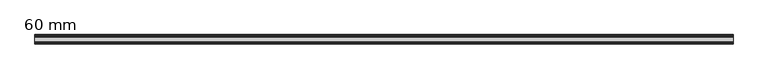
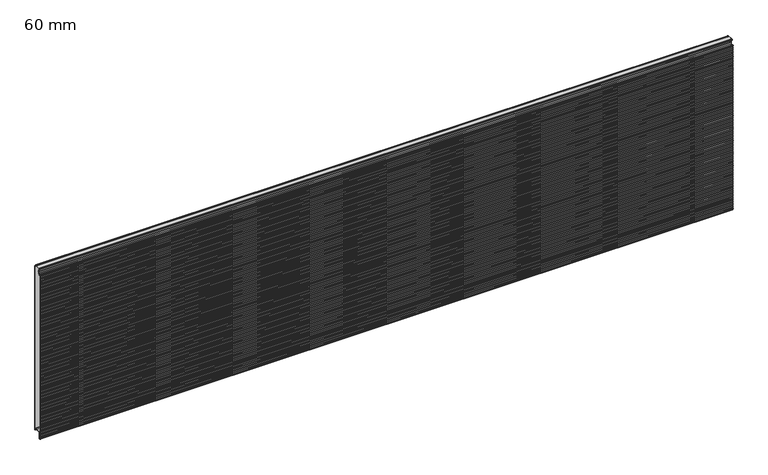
"""IFC4 building model written with IfcOpenShell, lengths in millimetres: plate geometry, HIANSA PANEL - H20.F05.001-HFM-PANELES DE FACHADA HOR - PANEL MICROPERFILADO - Panel de Muro Cortina : 60 mm."""

from ifc_helpers import new_model, si_unit, point, frame, frame_2d, origin, place, context, project, spatial, polyline, circle_curve, trimmed, segment, composite_curve, outline, extrude, source, transform, mapped, element, save


def plate_60_mm_c00890b3(model_context):
    return source(origin(), model_context, "Body", "SweptSolid", [
        extrude(outline(polyline([(-44.0928552, 1122.4810465), (-43.2950639, 1122.9800953), (-13.698739, 1122.9800953), (-12.9009477, 1122.4810465), (-44.0928552, 1122.4810465)])), frame((-2200.0, 0.0, 0.0), z_axis=(1.0, 0.0, 0.0), x_axis=(0.0, 1.0, 0.0)), (0.0, 0.0, 1.0), 4400.0),
        extrude(outline(polyline([(-44.0762276, 25.6210466), (-12.9205792, 25.6210466), (-13.7002597, 25.1210465), (-43.2965471, 25.1210465), (-44.0762276, 25.6210466)])), frame((-2200.0, 0.0, 0.0), z_axis=(1.0, 0.0, 0.0), x_axis=(0.0, 1.0, 0.0)), (0.0, 0.0, 1.0), 4400.0),
        extrude(outline(composite_curve([segment(polyline([(-49.4621895, -19.2009512), (-49.4621895, 22.7800953)]), True, "CONTINUOUS"), segment(trimmed(circle_curve(frame_2d((-46.6221895, 22.7800953)), 2.84), [point((-49.4621895, 22.7800953))], [point((-46.6221895, 25.6200953))], False, "CARTESIAN"), True, "CONTINUOUS"), segment(polyline([(-46.6221895, 25.6200953), (-44.0747442, 25.6200953), (-43.2950639, 25.1200953), (-46.6221895, 25.1200953)]), True, "CONTINUOUS"), segment(trimmed(circle_curve(frame_2d((-46.6221895, 22.7800953)), 2.34), [point((-46.6221895, 25.1200953))], [point((-48.9621895, 22.7800953))], True, "CARTESIAN"), True, "CONTINUOUS"), segment(polyline([(-48.9621895, 22.7800953), (-48.9621895, -19.0009512)]), True, "CONTINUOUS"), segment(trimmed(circle_curve(frame_2d((-49.6621895, -19.0009512)), 0.7), [point((-48.9621895, -19.0009512))], [point((-49.6621895, -19.7009512))], False, "CARTESIAN"), True, "CONTINUOUS"), segment(polyline([(-49.6621895, -19.7009512), (-53.4121895, -19.7009512)]), True, "CONTINUOUS"), segment(trimmed(circle_curve(frame_2d((-53.4121895, -19.0009512)), 0.7), [point((-53.4121895, -19.7009512))], [point((-54.1121895, -19.0009512))], False, "CARTESIAN"), True, "CONTINUOUS"), segment(polyline([(-54.1121895, -19.0009512), (-54.1121895, -10.8354413)]), True, "CONTINUOUS"), segment(trimmed(circle_curve(frame_2d((-55.4121895, -10.8354413)), 1.3), [point((-54.1121895, -10.8354413))], [point((-55.4121895, -9.5354413))], True, "CARTESIAN"), True, "CONTINUOUS"), segment(polyline([(-55.4121895, -9.5354413), (-57.8016102, -9.5354413)]), True, "CONTINUOUS"), segment(trimmed(circle_curve(frame_2d((-57.8016102, -7.9354413)), 1.6), [point((-57.8016102, -9.5354413))], [point((-59.3489873, -8.3424108))], False, "CARTESIAN"), True, "CONTINUOUS"), segment(polyline([(-59.3489873, -8.3424108), (-60.0, -5.8671339), (-58.9729658, 0.1648575), (-59.9990488, 6.1645587), (-58.9729147, 12.1645587), (-59.9990488, 18.1645587), (-58.9729147, 24.1645587), (-59.9990488, 30.1645587), (-58.9729147, 36.1645587), (-59.9990488, 42.1645587), (-58.9729147, 48.1645587), (-59.9990488, 54.1645587), (-58.9729147, 60.1645587), (-59.9990488, 66.1645587), (-58.9729147, 72.1645587), (-59.9990488, 78.1645587), (-58.9729147, 84.1645587), (-59.9990488, 90.1645587), (-58.9729147, 96.1645587), (-59.9990488, 102.1645587), (-58.9729147, 108.1645587), (-59.9990488, 114.1645587), (-58.9729147, 120.1645587), (-59.9990488, 126.1645587), (-58.9729147, 132.1645587), (-59.9990488, 138.1645587), (-58.9729147, 144.1645587), (-59.9990488, 150.1645587), (-58.9729147, 156.1645587), (-59.9990488, 162.1645587), (-58.9729147, 168.1645587), (-59.9990488, 174.1645587), (-58.9729147, 180.1645587), (-59.9990488, 186.1645587), (-58.9729147, 192.1645587), (-59.9990488, 198.1645587), (-58.9729147, 204.1645587), (-59.9990488, 210.1645587), (-58.9729147, 216.1645587), (-59.9990488, 222.1645587), (-58.9729147, 228.1645587), (-59.9990488, 234.1645587), (-58.9729147, 240.1645587), (-59.9990488, 246.1645587), (-58.9729147, 252.1645587), (-59.9990488, 258.1645587), (-58.9729147, 264.1645587), (-59.9990488, 270.1645587), (-58.9729147, 276.1645587), (-59.9990488, 282.1645587), (-58.9729147, 288.1645587), (-59.9990488, 294.1645587), (-58.9729147, 300.1645587), (-59.9990488, 306.1645587), (-58.9729147, 312.1645587), (-59.9990488, 318.1645587), (-58.9729147, 324.1645587), (-59.9990488, 330.1645587), (-58.9729147, 336.1645587), (-59.9990488, 342.1645587), (-58.9729147, 348.1645587), (-59.9990488, 354.1645587), (-58.9729147, 360.1645587), (-59.9990488, 366.1645587), (-58.9729147, 372.1645587), (-59.9990488, 378.1645587), (-58.9729147, 384.1645587), (-59.9990488, 390.1645587), (-58.9729147, 396.1645587), (-59.9990488, 402.1645587), (-58.9729147, 408.1645587), (-59.9990488, 414.1645587), (-58.9729147, 420.1645587), (-59.9990488, 426.1645587), (-58.9729147, 432.1645587), (-59.9990488, 438.1645587), (-58.9729147, 444.1645587), (-59.9990488, 450.1645587), (-58.9729147, 456.1645587), (-59.9990488, 462.1645587), (-58.9729147, 468.1645587), (-59.9990488, 474.1645587), (-58.9729147, 480.1645587), (-59.9990488, 486.1645587), (-58.9729147, 492.1645587), (-59.9990488, 498.1645587), (-58.9729147, 504.1645587), (-59.9990488, 510.1645587), (-58.9729147, 516.1645587), (-59.9990488, 522.1645587), (-58.9729147, 528.1645587), (-59.9990488, 534.1645587), (-58.9729147, 540.1645587), (-59.9990488, 546.1645587), (-58.9729147, 552.1645587), (-59.9990488, 558.1645587), (-58.9729147, 564.1645587), (-59.9990488, 570.1645587), (-58.9729147, 576.1645587), (-59.9990488, 582.1645587), (-58.9729147, 588.1645587), (-59.9990488, 594.1645587), (-58.9729147, 600.1645587), (-59.9990488, 606.1645587), (-58.9729147, 612.1645587), (-59.9990488, 618.1645587), (-58.9729147, 624.1645587), (-59.9990488, 630.1645587), (-58.9729147, 636.1645587), (-59.9990488, 642.1645587), (-58.9729147, 648.1645587), (-59.9990488, 654.1645587), (-58.9729147, 660.1645587), (-59.9990488, 666.1645587), (-58.9729147, 672.1645587), (-59.9990488, 678.1645587), (-58.9729147, 684.1645587), (-59.9990488, 690.1645587), (-58.9729147, 696.1645587), (-59.9990488, 702.1645587), (-58.9729147, 708.1645587), (-59.9990488, 714.1645587), (-58.9729147, 720.1645587), (-59.9990488, 726.1645587), (-58.9729147, 732.1645587), (-59.9990488, 738.1645587), (-58.9729147, 744.1645587), (-59.9990488, 750.1645587), (-58.9729147, 756.1645587), (-59.9990488, 762.1645587), (-58.9729147, 768.1645587), (-59.9990488, 774.1645587), (-58.9729147, 780.1645587), (-59.9990488, 786.1645587), (-58.9729147, 792.1645587), (-59.9990488, 798.1645587), (-58.9729147, 804.1645587), (-59.9990488, 810.1645587), (-58.9729147, 816.1645587), (-59.9990488, 822.1645587), (-58.9729147, 828.1645587), (-59.9990488, 834.1645587), (-58.9729147, 840.1645587), (-59.9990488, 846.1645587), (-58.9729147, 852.1645587), (-59.9990488, 858.1645587), (-58.9729147, 864.1645587), (-59.9990488, 870.1645587), (-58.9729147, 876.1645587), (-59.9990488, 882.1645587), (-58.9729147, 888.1645587), (-59.9990488, 894.1645587), (-58.9729147, 900.1645587), (-59.9990488, 906.1645587), (-58.9729147, 912.1645587), (-59.9990488, 918.1645587), (-58.9729147, 924.1645587), (-59.9990488, 930.1645587), (-58.9729147, 936.1645587), (-59.9990488, 942.1645587), (-58.9729147, 948.1645587), (-59.9990488, 954.1645587), (-58.9729147, 960.1645587), (-59.9990488, 966.1645587), (-58.9729147, 972.1645587), (-59.9990488, 978.1645587), (-58.9729147, 984.1645587), (-59.9990488, 990.1645587), (-58.9729147, 996.1645587), (-59.9990488, 1002.1645587), (-58.9729147, 1008.1645587), (-59.9990488, 1014.1645587), (-58.9729147, 1020.1645587), (-59.9990488, 1026.1645587), (-58.9729147, 1032.1645587), (-59.9990488, 1038.1645587), (-58.9729147, 1044.1645587), (-59.9990488, 1050.1645587), (-58.9729147, 1056.1645587), (-59.9990488, 1062.1645587), (-58.9729147, 1068.1645587), (-59.9990488, 1074.1645587), (-58.9729658, 1080.1642599), (-60.0, 1086.1962513), (-59.3489873, 1088.6715282)]), True, "CONTINUOUS"), segment(trimmed(circle_curve(frame_2d((-57.8016102, 1088.2645587)), 1.6), [point((-59.3489873, 1088.6715282))], [point((-57.8016102, 1089.8645587))], False, "CARTESIAN"), True, "CONTINUOUS"), segment(polyline([(-57.8016102, 1089.8645587), (-55.6621895, 1089.8645587)]), True, "CONTINUOUS"), segment(trimmed(circle_curve(frame_2d((-55.6621895, 1089.1645587)), 0.7), [point((-55.6621895, 1089.8645587))], [point((-54.9621895, 1089.1645587))], False, "CARTESIAN"), True, "CONTINUOUS"), segment(polyline([(-54.9621895, 1089.1645587), (-54.9621895, 1080.4990488)]), True, "CONTINUOUS"), segment(trimmed(circle_curve(frame_2d((-53.6621895, 1080.4990488)), 1.3), [point((-54.9621895, 1080.4990488))], [point((-53.6621895, 1079.1990488))], True, "CARTESIAN"), True, "CONTINUOUS"), segment(polyline([(-53.6621895, 1079.1990488), (-49.4121895, 1079.1990488)]), True, "CONTINUOUS"), segment(trimmed(circle_curve(frame_2d((-49.4121895, 1080.4990488)), 1.3), [point((-49.4121895, 1079.1990488))], [point((-48.1121895, 1080.4990488))], True, "CARTESIAN"), True, "CONTINUOUS"), segment(polyline([(-48.1121895, 1080.4990488), (-48.1121895, 1082.1003519)]), True, "CONTINUOUS"), segment(trimmed(circle_curve(frame_2d((-46.4121895, 1082.1003519)), 1.7), [point((-48.1121895, 1082.1003519))], [point((-47.3872694, 1083.4929104))], False, "CARTESIAN"), True, "CONTINUOUS"), segment(polyline([(-47.3872694, 1083.4929104), (-41.3297519, 1087.7344298)]), True, "CONTINUOUS"), segment(trimmed(circle_curve(frame_2d((-42.3621895, 1089.2089035)), 1.8), [point((-41.3297519, 1087.7344298))], [point((-40.5621895, 1089.2089035))], True, "CARTESIAN"), True, "CONTINUOUS"), segment(polyline([(-40.5621895, 1089.2089035), (-40.5621895, 1098.3598183), (-39.8467194, 1099.5990488)]), True, "CONTINUOUS"), segment(trimmed(circle_curve(frame_2d((-40.5395397, 1099.9990488)), 0.8), [point((-39.8467194, 1099.5990488))], [point((-39.8467194, 1100.3990488))], True, "CARTESIAN"), True, "CONTINUOUS"), segment(polyline([(-39.8467194, 1100.3990488), (-40.5621895, 1101.6382793), (-40.5621895, 1110.7891941)]), True, "CONTINUOUS"), segment(trimmed(circle_curve(frame_2d((-42.3621895, 1110.7891941)), 1.8), [point((-40.5621895, 1110.7891941))], [point((-41.3297519, 1112.2636677))], True, "CARTESIAN"), True, "CONTINUOUS"), segment(polyline([(-41.3297519, 1112.2636677), (-47.3872694, 1116.5051872)]), True, "CONTINUOUS"), segment(trimmed(circle_curve(frame_2d((-46.4121895, 1117.8977457)), 1.7), [point((-47.3872694, 1116.5051872))], [point((-48.1121895, 1117.8977457))], False, "CARTESIAN"), True, "CONTINUOUS"), segment(polyline([(-48.1121895, 1117.8977457), (-48.1121895, 1121.2800953)]), True, "CONTINUOUS"), segment(trimmed(circle_curve(frame_2d((-46.4121895, 1121.2800953)), 1.7), [point((-48.1121895, 1121.2800953))], [point((-46.4121895, 1122.9800953))], False, "CARTESIAN"), True, "CONTINUOUS"), segment(polyline([(-46.4121895, 1122.9800953), (-43.2950639, 1122.9800953), (-44.0943758, 1122.4800953), (-46.4121895, 1122.4800953)]), True, "CONTINUOUS"), segment(trimmed(circle_curve(frame_2d((-46.4121895, 1121.2800953)), 1.2), [point((-46.4121895, 1122.4800953))], [point((-47.6121895, 1121.2800953))], True, "CARTESIAN"), True, "CONTINUOUS"), segment(polyline([(-47.6121895, 1121.2800953), (-47.6121895, 1117.8977457)]), True, "CONTINUOUS"), segment(trimmed(circle_curve(frame_2d((-46.4121895, 1117.8977457)), 1.2), [point((-47.6121895, 1117.8977457))], [point((-47.1004812, 1116.9147632))], True, "CARTESIAN"), True, "CONTINUOUS"), segment(polyline([(-47.1004812, 1116.9147632), (-41.0429637, 1112.6732438)]), True, "CONTINUOUS"), segment(trimmed(circle_curve(frame_2d((-42.3621895, 1110.7891941)), 2.3), [point((-41.0429637, 1112.6732438))], [point((-40.0621895, 1110.7891941))], False, "CARTESIAN"), True, "CONTINUOUS"), segment(polyline([(-40.0621895, 1110.7891941), (-40.0621895, 1101.7722539), (-39.4137067, 1100.6490488)]), True, "CONTINUOUS"), segment(trimmed(circle_curve(frame_2d((-40.5395397, 1099.9990488)), 1.3), [point((-39.4137067, 1100.6490488))], [point((-39.4137067, 1099.3490488))], False, "CARTESIAN"), True, "CONTINUOUS"), segment(polyline([(-39.4137067, 1099.3490488), (-40.0621895, 1098.2258437), (-40.0621895, 1089.2089035)]), True, "CONTINUOUS"), segment(trimmed(circle_curve(frame_2d((-42.3621895, 1089.2089035)), 2.3), [point((-40.0621895, 1089.2089035))], [point((-41.0429637, 1087.3248538))], False, "CARTESIAN"), True, "CONTINUOUS"), segment(polyline([(-41.0429637, 1087.3248538), (-47.1004812, 1083.0833344)]), True, "CONTINUOUS"), segment(trimmed(circle_curve(frame_2d((-46.4121895, 1082.1003519)), 1.2), [point((-47.1004812, 1083.0833344))], [point((-47.6121895, 1082.1003519))], True, "CARTESIAN"), True, "CONTINUOUS"), segment(polyline([(-47.6121895, 1082.1003519), (-47.6121895, 1080.4990488)]), True, "CONTINUOUS"), segment(trimmed(circle_curve(frame_2d((-49.4121895, 1080.4990488)), 1.8), [point((-47.6121895, 1080.4990488))], [point((-49.4121895, 1078.6990488))], False, "CARTESIAN"), True, "CONTINUOUS"), segment(polyline([(-49.4121895, 1078.6990488), (-53.6621895, 1078.6990488)]), True, "CONTINUOUS"), segment(trimmed(circle_curve(frame_2d((-53.6621895, 1080.4990488)), 1.8), [point((-53.6621895, 1078.6990488))], [point((-55.4621895, 1080.4990488))], False, "CARTESIAN"), True, "CONTINUOUS"), segment(polyline([(-55.4621895, 1080.4990488), (-55.4621895, 1089.3645587), (-57.8016102, 1089.3645587)]), True, "CONTINUOUS"), segment(trimmed(circle_curve(frame_2d((-57.8016102, 1088.2645587)), 1.1), [point((-57.8016102, 1089.3645587))], [point((-58.8654319, 1088.5443502))], True, "CARTESIAN"), True, "CONTINUOUS"), segment(polyline([(-58.8654319, 1088.5443502), (-59.4889499, 1086.1736137), (-58.4657383, 1080.1640732), (-59.4917893, 1074.1645587), (-58.4656553, 1068.1645587), (-59.4917893, 1062.1645587), (-58.4656553, 1056.1645587), (-59.4917893, 1050.1645587), (-58.4656553, 1044.1645587), (-59.4917893, 1038.1645587), (-58.4656553, 1032.1645587), (-59.4917893, 1026.1645587), (-58.4656553, 1020.1645587), (-59.4917893, 1014.1645587), (-58.4656553, 1008.1645587), (-59.4917893, 1002.1645587), (-58.4656553, 996.1645587), (-59.4917893, 990.1645587), (-58.4656553, 984.1645587), (-59.4917893, 978.1645587), (-58.4656553, 972.1645587), (-59.4917893, 966.1645587), (-58.4656553, 960.1645587), (-59.4917893, 954.1645587), (-58.4656553, 948.1645587), (-59.4917893, 942.1645587), (-58.4656553, 936.1645587), (-59.4917893, 930.1645587), (-58.4656553, 924.1645587), (-59.4917893, 918.1645587), (-58.4656553, 912.1645587), (-59.4917893, 906.1645587), (-58.4656553, 900.1645587), (-59.4917893, 894.1645587), (-58.4656553, 888.1645587), (-59.4917893, 882.1645587), (-58.4656553, 876.1645587), (-59.4917893, 870.1645587), (-58.4656553, 864.1645587), (-59.4917893, 858.1645587), (-58.4656553, 852.1645587), (-59.4917893, 846.1645587), (-58.4656553, 840.1645587), (-59.4917893, 834.1645587), (-58.4656553, 828.1645587), (-59.4917893, 822.1645587), (-58.4656553, 816.1645587), (-59.4917893, 810.1645587), (-58.4656553, 804.1645587), (-59.4917893, 798.1645587), (-58.4656553, 792.1645587), (-59.4917893, 786.1645587), (-58.4656553, 780.1645587), (-59.4917893, 774.1645587), (-58.4656553, 768.1645587), (-59.4917893, 762.1645587), (-58.4656553, 756.1645587), (-59.4917893, 750.1645587), (-58.4656553, 744.1645587), (-59.4917893, 738.1645587), (-58.4656553, 732.1645587), (-59.4917893, 726.1645587), (-58.4656553, 720.1645587), (-59.4917893, 714.1645587), (-58.4656553, 708.1645587), (-59.4917893, 702.1645587), (-58.4656553, 696.1645587), (-59.4917893, 690.1645587), (-58.4656553, 684.1645587), (-59.4917893, 678.1645587), (-58.4656553, 672.1645587), (-59.4917893, 666.1645587), (-58.4656553, 660.1645587), (-59.4917893, 654.1645587), (-58.4656553, 648.1645587), (-59.4917893, 642.1645587), (-58.4656553, 636.1645587), (-59.4917893, 630.1645587), (-58.4656553, 624.1645587), (-59.4917893, 618.1645587), (-58.4656553, 612.1645587), (-59.4917893, 606.1645587), (-58.4656553, 600.1645587), (-59.4917893, 594.1645587), (-58.4656553, 588.1645587), (-59.4917893, 582.1645587), (-58.4656553, 576.1645587), (-59.4917893, 570.1645587), (-58.4656553, 564.1645587), (-59.4917893, 558.1645587), (-58.4656553, 552.1645587), (-59.4917893, 546.1645587), (-58.4656553, 540.1645587), (-59.4917893, 534.1645587), (-58.4656553, 528.1645587), (-59.4917893, 522.1645587), (-58.4656553, 516.1645587), (-59.4917893, 510.1645587), (-58.4656553, 504.1645587), (-59.4917893, 498.1645587), (-58.4656553, 492.1645587), (-59.4917893, 486.1645587), (-58.4656553, 480.1645587), (-59.4917893, 474.1645587), (-58.4656553, 468.1645587), (-59.4917893, 462.1645587), (-58.4656553, 456.1645587), (-59.4917893, 450.1645587), (-58.4656553, 444.1645587), (-59.4917893, 438.1645587), (-58.4656553, 432.1645587), (-59.4917893, 426.1645587), (-58.4656553, 420.1645587), (-59.4917893, 414.1645587), (-58.4656553, 408.1645587), (-59.4917893, 402.1645587), (-58.4656553, 396.1645587), (-59.4917893, 390.1645587), (-58.4656553, 384.1645587), (-59.4917893, 378.1645587), (-58.4656553, 372.1645587), (-59.4917893, 366.1645587), (-58.4656553, 360.1645587), (-59.4917893, 354.1645587), (-58.4656553, 348.1645587), (-59.4917893, 342.1645587), (-58.4656553, 336.1645587), (-59.4917893, 330.1645587), (-58.4656553, 324.1645587), (-59.4917893, 318.1645587), (-58.4656553, 312.1645587), (-59.4917893, 306.1645587), (-58.4656553, 300.1645587), (-59.4917893, 294.1645587), (-58.4656553, 288.1645587), (-59.4917893, 282.1645587), (-58.4656553, 276.1645587), (-59.4917893, 270.1645587), (-58.4656553, 264.1645587), (-59.4917893, 258.1645587), (-58.4656553, 252.1645587), (-59.4917893, 246.1645587), (-58.4656553, 240.1645587), (-59.4917893, 234.1645587), (-58.4656553, 228.1645587), (-59.4917893, 222.1645587), (-58.4656553, 216.1645587), (-59.4917893, 210.1645587), (-58.4656553, 204.1645587), (-59.4917893, 198.1645587), (-58.4656553, 192.1645587), (-59.4917893, 186.1645587), (-58.4656553, 180.1645587), (-59.4917893, 174.1645587), (-58.4656553, 168.1645587), (-59.4917893, 162.1645587), (-58.4656553, 156.1645587), (-59.4917893, 150.1645587), (-58.4656553, 144.1645587), (-59.4917893, 138.1645587), (-58.4656553, 132.1645587), (-59.4917893, 126.1645587), (-58.4656553, 120.1645587), (-59.4917893, 114.1645587), (-58.4656553, 108.1645587), (-59.4917893, 102.1645587), (-58.4656553, 96.1645587), (-59.4917893, 90.1645587), (-58.4656553, 84.1645587), (-59.4917893, 78.1645587), (-58.4656553, 72.1645587), (-59.4917893, 66.1645587), (-58.4656553, 60.1645587), (-59.4917893, 54.1645587), (-58.4656553, 48.1645587), (-59.4917893, 42.1645587), (-58.4656553, 36.1645587), (-59.4917893, 30.1645587), (-58.4656553, 24.1645587), (-59.4917893, 18.1645587), (-58.4656553, 12.1645587), (-59.4917893, 6.1645587), (-58.4657383, 0.1650443), (-59.4889499, -5.8444963), (-58.8654319, -8.2152328)]), True, "CONTINUOUS"), segment(trimmed(circle_curve(frame_2d((-57.8016102, -7.9354413)), 1.1), [point((-58.8654319, -8.2152328))], [point((-57.8016102, -9.0354413))], True, "CARTESIAN"), True, "CONTINUOUS"), segment(polyline([(-57.8016102, -9.0354413), (-55.4121895, -9.0354413)]), True, "CONTINUOUS"), segment(trimmed(circle_curve(frame_2d((-55.4121895, -10.8354413)), 1.8), [point((-55.4121895, -9.0354413))], [point((-53.6121895, -10.8354413))], False, "CARTESIAN"), True, "CONTINUOUS"), segment(polyline([(-53.6121895, -10.8354413), (-53.6121895, -19.2009512), (-49.4621895, -19.2009512)]), True, "CONTINUOUS")], self_intersect=False)), frame((-2200.0, 0.0, 0.0), z_axis=(1.0, 0.0, 0.0), x_axis=(0.0, 1.0, 0.0)), (0.0, 0.0, 1.0), 4400.0),
        extrude(outline(composite_curve([segment(polyline([(-55.4131407, -9.0344901), (-57.8025614, -9.0344901)]), True, "CONTINUOUS"), segment(trimmed(circle_curve(frame_2d((-57.8025614, -7.9344901)), 1.1), [point((-57.8025614, -9.0344901))], [point((-58.8663831, -8.2142816))], False, "CARTESIAN"), True, "CONTINUOUS"), segment(polyline([(-58.8663831, -8.2142816), (-59.4899011, -5.8435451), (-58.4666895, 0.1659955), (-59.4927406, 6.1655099), (-58.4666065, 12.1655099), (-59.4927406, 18.1655099), (-58.4666065, 24.1655099), (-59.4927406, 30.1655099), (-58.4666065, 36.1655099), (-59.4927406, 42.1655099), (-58.4666065, 48.1655099), (-59.4927406, 54.1655099), (-58.4666065, 60.1655099), (-59.4927406, 66.1655099), (-58.4666065, 72.1655099), (-59.4927406, 78.1655099), (-58.4666065, 84.1655099), (-59.4927406, 90.1655099), (-58.4666065, 96.1655099), (-59.4927406, 102.1655099), (-58.4666065, 108.1655099), (-59.4927406, 114.1655099), (-58.4666065, 120.1655099), (-59.4927406, 126.1655099), (-58.4666065, 132.1655099), (-59.4927406, 138.1655099), (-58.4666065, 144.1655099), (-59.4927406, 150.1655099), (-58.4666065, 156.1655099), (-59.4927406, 162.1655099), (-58.4666065, 168.1655099), (-59.4927406, 174.1655099), (-58.4666065, 180.1655099), (-59.4927406, 186.1655099), (-58.4666065, 192.1655099), (-59.4927406, 198.1655099), (-58.4666065, 204.1655099), (-59.4927406, 210.1655099), (-58.4666065, 216.1655099), (-59.4927406, 222.1655099), (-58.4666065, 228.1655099), (-59.4927406, 234.1655099), (-58.4666065, 240.1655099), (-59.4927406, 246.1655099), (-58.4666065, 252.1655099), (-59.4927406, 258.1655099), (-58.4666065, 264.1655099), (-59.4927406, 270.1655099), (-58.4666065, 276.1655099), (-59.4927406, 282.1655099), (-58.4666065, 288.1655099), (-59.4927406, 294.1655099), (-58.4666065, 300.1655099), (-59.4927406, 306.1655099), (-58.4666065, 312.1655099), (-59.4927406, 318.1655099), (-58.4666065, 324.1655099), (-59.4927406, 330.1655099), (-58.4666065, 336.1655099), (-59.4927406, 342.1655099), (-58.4666065, 348.1655099), (-59.4927406, 354.1655099), (-58.4666065, 360.1655099), (-59.4927406, 366.1655099), (-58.4666065, 372.1655099), (-59.4927406, 378.1655099), (-58.4666065, 384.1655099), (-59.4927406, 390.1655099), (-58.4666065, 396.1655099), (-59.4927406, 402.1655099), (-58.4666065, 408.1655099), (-59.4927406, 414.1655099), (-58.4666065, 420.1655099), (-59.4927406, 426.1655099), (-58.4666065, 432.1655099), (-59.4927406, 438.1655099), (-58.4666065, 444.1655099), (-59.4927406, 450.1655099), (-58.4666065, 456.1655099), (-59.4927406, 462.1655099), (-58.4666065, 468.1655099), (-59.4927406, 474.1655099), (-58.4666065, 480.1655099), (-59.4927406, 486.1655099), (-58.4666065, 492.1655099), (-59.4927406, 498.1655099), (-58.4666065, 504.1655099), (-59.4927406, 510.1655099), (-58.4666065, 516.1655099), (-59.4927406, 522.1655099), (-58.4666065, 528.1655099), (-59.4927406, 534.1655099), (-58.4666065, 540.1655099), (-59.4927406, 546.1655099), (-58.4666065, 552.1655099), (-59.4927406, 558.1655099), (-58.4666065, 564.1655099), (-59.4927406, 570.1655099), (-58.4666065, 576.1655099), (-59.4927406, 582.1655099), (-58.4666065, 588.1655099), (-59.4927406, 594.1655099), (-58.4666065, 600.1655099), (-59.4927406, 606.1655099), (-58.4666065, 612.1655099), (-59.4927406, 618.1655099), (-58.4666065, 624.1655099), (-59.4927406, 630.1655099), (-58.4666065, 636.1655099), (-59.4927406, 642.1655099), (-58.4666065, 648.1655099), (-59.4927406, 654.1655099), (-58.4666065, 660.1655099), (-59.4927406, 666.1655099), (-58.4666065, 672.1655099), (-59.4927406, 678.1655099), (-58.4666065, 684.1655099), (-59.4927406, 690.1655099), (-58.4666065, 696.1655099), (-59.4927406, 702.1655099), (-58.4666065, 708.1655099), (-59.4927406, 714.1655099), (-58.4666065, 720.1655099), (-59.4927406, 726.1655099), (-58.4666065, 732.1655099), (-59.4927406, 738.1655099), (-58.4666065, 744.1655099), (-59.4927406, 750.1655099), (-58.4666065, 756.1655099), (-59.4927406, 762.1655099), (-58.4666065, 768.1655099), (-59.4927406, 774.1655099), (-58.4666065, 780.1655099), (-59.4927406, 786.1655099), (-58.4666065, 792.1655099), (-59.4927406, 798.1655099), (-58.4666065, 804.1655099), (-59.4927406, 810.1655099), (-58.4666065, 816.1655099), (-59.4927406, 822.1655099), (-58.4666065, 828.1655099), (-59.4927406, 834.1655099), (-58.4666065, 840.1655099), (-59.4927406, 846.1655099), (-58.4666065, 852.1655099), (-59.4927406, 858.1655099), (-58.4666065, 864.1655099), (-59.4927406, 870.1655099), (-58.4666065, 876.1655099), (-59.4927406, 882.1655099), (-58.4666065, 888.1655099), (-59.4927406, 894.1655099), (-58.4666065, 900.1655099), (-59.4927406, 906.1655099), (-58.4666065, 912.1655099), (-59.4927406, 918.1655099), (-58.4666065, 924.1655099), (-59.4927406, 930.1655099), (-58.4666065, 936.1655099), (-59.4927406, 942.1655099), (-58.4666065, 948.1655099), (-59.4927406, 954.1655099), (-58.4666065, 960.1655099), (-59.4927406, 966.1655099), (-58.4666065, 972.1655099), (-59.4927406, 978.1655099), (-58.4666065, 984.1655099), (-59.4927406, 990.1655099), (-58.4666065, 996.1655099), (-59.4927406, 1002.1655099), (-58.4666065, 1008.1655099), (-59.4927406, 1014.1655099), (-58.4666065, 1020.1655099), (-59.4927406, 1026.1655099), (-58.4666065, 1032.1655099), (-59.4927406, 1038.1655099), (-58.4666065, 1044.1655099), (-59.4927406, 1050.1655099), (-58.4666065, 1056.1655099), (-59.4927406, 1062.1655099), (-58.4666065, 1068.1655099), (-59.4927406, 1074.1655099), (-58.4666895, 1080.1650244), (-59.4899011, 1086.1745649), (-58.8663831, 1088.5453014)]), True, "CONTINUOUS"), segment(trimmed(circle_curve(frame_2d((-57.8025614, 1088.2655099)), 1.1), [point((-58.8663831, 1088.5453014))], [point((-57.8025614, 1089.3655099))], False, "CARTESIAN"), True, "CONTINUOUS"), segment(polyline([(-57.8025614, 1089.3655099), (-55.4631407, 1089.3655099), (-55.4631407, 1080.5)]), True, "CONTINUOUS"), segment(trimmed(circle_curve(frame_2d((-53.6631407, 1080.5)), 1.8), [point((-55.4631407, 1080.5))], [point((-53.6631407, 1078.7))], True, "CARTESIAN"), True, "CONTINUOUS"), segment(polyline([(-53.6631407, 1078.7), (-49.4131407, 1078.7)]), True, "CONTINUOUS"), segment(trimmed(circle_curve(frame_2d((-49.4131407, 1080.5)), 1.8), [point((-49.4131407, 1078.7))], [point((-47.6131407, 1080.5))], True, "CARTESIAN"), True, "CONTINUOUS"), segment(polyline([(-47.6131407, 1080.5), (-47.6131407, 1082.1013031)]), True, "CONTINUOUS"), segment(trimmed(circle_curve(frame_2d((-46.4131407, 1082.1013031)), 1.2), [point((-47.6131407, 1082.1013031))], [point((-47.1014324, 1083.0842856))], False, "CARTESIAN"), True, "CONTINUOUS"), segment(polyline([(-47.1014324, 1083.0842856), (-41.0439149, 1087.325805)]), True, "CONTINUOUS"), segment(trimmed(circle_curve(frame_2d((-42.3631408, 1089.2098547)), 2.3000001), [point((-41.0439149, 1087.325805))], [point((-40.0631407, 1089.2098547))], True, "CARTESIAN"), True, "CONTINUOUS"), segment(polyline([(-40.0631407, 1089.2098547), (-40.0631407, 1098.2267949), (-39.4146579, 1099.35)]), True, "CONTINUOUS"), segment(trimmed(circle_curve(frame_2d((-40.5404909, 1100.0)), 1.3), [point((-39.4146579, 1099.35))], [point((-39.4146579, 1100.65))], True, "CARTESIAN"), True, "CONTINUOUS"), segment(polyline([(-39.4146579, 1100.65), (-40.0631407, 1101.7732051), (-40.0631407, 1110.7901453)]), True, "CONTINUOUS"), segment(trimmed(circle_curve(frame_2d((-42.3631407, 1110.7901453)), 2.2999999), [point((-40.0631407, 1110.7901453))], [point((-41.0439149, 1112.6741949))], True, "CARTESIAN"), True, "CONTINUOUS"), segment(polyline([(-41.0439149, 1112.6741949), (-47.1014324, 1116.9157143)]), True, "CONTINUOUS"), segment(trimmed(circle_curve(frame_2d((-46.4131408, 1117.8986968)), 1.1999999), [point((-47.1014324, 1116.9157143))], [point((-47.6131407, 1117.8986968))], False, "CARTESIAN"), True, "CONTINUOUS"), segment(polyline([(-47.6131407, 1117.8986968), (-47.6131407, 1121.2810465)]), True, "CONTINUOUS"), segment(trimmed(circle_curve(frame_2d((-46.4131407, 1121.2810465)), 1.2000001), [point((-47.6131407, 1121.2810465))], [point((-46.4131407, 1122.4810465))], False, "CARTESIAN"), True, "CONTINUOUS"), segment(polyline([(-46.4131407, 1122.4810465), (-7.75, 1122.4810465)]), True, "CONTINUOUS"), segment(trimmed(circle_curve(frame_2d((-7.75, 1121.4810465)), 1.0), [point((-7.75, 1122.4810465))], [point((-6.75, 1121.4810465))], False, "CARTESIAN"), True, "CONTINUOUS"), segment(polyline([(-6.75, 1121.4810465), (-6.75, 1115.3317319)]), True, "CONTINUOUS"), segment(trimmed(circle_curve(frame_2d((-4.746, 1115.3317319)), 2.004), [point((-6.75, 1115.3317319))], [point((-4.746, 1113.3277319))], True, "CARTESIAN"), True, "CONTINUOUS"), segment(polyline([(-4.746, 1113.3277319), (-1.5, 1113.3277319)]), True, "CONTINUOUS"), segment(trimmed(circle_curve(frame_2d((-1.5, 1112.3277319)), 1.0), [point((-1.5, 1113.3277319))], [point((-0.5, 1112.3277319))], False, "CARTESIAN"), True, "CONTINUOUS"), segment(polyline([(-0.5, 1112.3277319), (-0.5, 1087.4488708), (-1.5, 1084.4488708), (-1.5, 1044.2865931), (-0.5, 1041.2865931), (-0.5, 996.4488708), (-1.5, 993.4488708), (-1.5, 953.2865931), (-0.5, 950.2865931), (-0.5, 905.4488708), (-1.5, 902.4488708), (-1.5, 862.2865931), (-0.5, 859.2865931), (-0.5, 814.4488708), (-1.5, 811.4488708), (-1.5, 771.2865931), (-0.5, 768.2865931), (-0.5, 723.4488708), (-1.5, 720.4488708), (-1.5, 680.2865931), (-0.5, 677.2865931), (-0.5, 632.4488708), (-1.5, 629.4488708), (-1.5, 589.2865931), (-0.5, 586.2865931), (-0.5, 541.4488708), (-1.5, 538.4488708), (-1.5, 498.2865931), (-0.5, 495.2865931), (-0.5, 450.4488708), (-1.5, 447.4488708), (-1.5, 407.2865931), (-0.5, 404.2865931), (-0.5, 359.4488708), (-1.5, 356.4488708), (-1.5, 316.2865931), (-0.5, 313.2865931), (-0.5, 268.4488708), (-1.5, 265.4488708), (-1.5, 225.2865931), (-0.5, 222.2865931), (-0.5, 177.4488708), (-1.5, 174.4488708), (-1.5, 134.2865931), (-0.5, 131.2865931), (-0.5, 86.4488708), (-1.5, 83.4488708), (-1.5, 43.2865931), (-0.4999995, 40.2865931), (-0.4999995, 15.3677318)]), True, "CONTINUOUS"), segment(trimmed(circle_curve(frame_2d((-1.4999993, 15.3677318)), 0.9999997), [point((-0.4999995, 15.3677318))], [point((-1.4999993, 14.3677321))], False, "CARTESIAN"), True, "CONTINUOUS"), segment(polyline([(-1.4999993, 14.3677321), (-4.4999993, 14.367726)]), True, "CONTINUOUS"), segment(trimmed(circle_curve(frame_2d((-4.4999993, 15.367732)), 1.0000061), [point((-4.4999993, 14.367726))], [point((-5.5000054, 15.367732))], False, "CARTESIAN"), True, "CONTINUOUS"), segment(polyline([(-5.5000054, 15.367732), (-5.5000054, 23.5810465)]), True, "CONTINUOUS"), segment(trimmed(circle_curve(frame_2d((-7.5400056, 23.5810465)), 2.0400001), [point((-5.5000054, 23.5810465))], [point((-7.5400056, 25.6210466))], True, "CARTESIAN"), True, "CONTINUOUS"), segment(polyline([(-7.5400056, 25.6210466), (-46.6231406, 25.6210466)]), True, "CONTINUOUS"), segment(trimmed(circle_curve(frame_2d((-46.6231406, 22.7810466)), 2.84), [point((-46.6231406, 25.6210466))], [point((-49.4631407, 22.7810466))], True, "CARTESIAN"), True, "CONTINUOUS"), segment(polyline([(-49.4631407, 22.7810466), (-49.4631407, -19.2), (-53.6131407, -19.2), (-53.6131407, -10.8344901)]), True, "CONTINUOUS"), segment(trimmed(circle_curve(frame_2d((-55.4131407, -10.8344901)), 1.8), [point((-53.6131407, -10.8344901))], [point((-55.4131407, -9.0344901))], True, "CARTESIAN"), True, "CONTINUOUS")], self_intersect=False)), frame((-2200.0, 0.0, 0.0), z_axis=(1.0, 0.0, 0.0), x_axis=(0.0, 1.0, 0.0)), (0.0, 0.0, 1.0), 4400.0),
        extrude(outline(composite_curve([segment(trimmed(circle_curve(frame_2d((-7.5400057, 23.5810465)), 2.04), [point((-7.5400057, 25.6210465))], [point((-5.5000057, 23.5810465))], False, "CARTESIAN"), True, "CONTINUOUS"), segment(polyline([(-5.5000057, 23.5810465), (-5.5000057, 15.3677319)]), True, "CONTINUOUS"), segment(trimmed(circle_curve(frame_2d((-4.5, 15.3677319)), 1.0000057), [point((-5.5000057, 15.3677319))], [point((-4.4999981, 14.3677262))], True, "CARTESIAN"), True, "CONTINUOUS"), segment(polyline([(-4.4999981, 14.3677262), (-1.4999981, 14.3677319)]), True, "CONTINUOUS"), segment(trimmed(circle_curve(frame_2d((-1.5, 15.3677319)), 1.0), [point((-1.4999981, 14.3677319))], [point((-0.5, 15.3677319))], True, "CARTESIAN"), True, "CONTINUOUS"), segment(polyline([(-0.5, 15.3677319), (-0.5, 40.2865931), (-1.5, 43.2865931), (-1.5, 83.4488708), (-0.5, 86.4488708), (-0.5, 131.2865931), (-1.5, 134.2865931), (-1.5, 174.4488708), (-0.5, 177.4488708), (-0.5, 222.2865931), (-1.5, 225.2865931), (-1.5, 265.4488708), (-0.5, 268.4488708), (-0.5, 313.2865931), (-1.5, 316.2865931), (-1.5, 356.4488708), (-0.5, 359.4488708), (-0.5, 404.2865931), (-1.5, 407.2865931), (-1.5, 447.4488708), (-0.5, 450.4488708), (-0.5, 495.2865931), (-1.5, 498.2865931), (-1.5, 538.4488708), (-0.5, 541.4488708), (-0.5, 586.2865931), (-1.5, 589.2865931), (-1.5, 629.4488708), (-0.5, 632.4488708), (-0.5, 677.2865931), (-1.5, 680.2865931), (-1.5, 720.4488708), (-0.5, 723.4488708), (-0.5, 768.2865931), (-1.5, 771.2865931), (-1.5, 811.4488708), (-0.5, 814.4488708), (-0.5, 859.2865931), (-1.5, 862.2865931), (-1.5, 902.4488708), (-0.5, 905.4488708), (-0.5, 950.2865931), (-1.5, 953.2865931), (-1.5, 993.4488708), (-0.5, 996.4488708), (-0.5, 1041.2865931), (-1.5, 1044.2865931), (-1.5, 1084.4488708), (-0.5, 1087.4488708), (-0.5, 1112.3277319)]), True, "CONTINUOUS"), segment(trimmed(circle_curve(frame_2d((-1.5, 1112.3277319)), 1.0), [point((-0.5, 1112.3277319))], [point((-1.5, 1113.3277319))], True, "CARTESIAN"), True, "CONTINUOUS"), segment(polyline([(-1.5, 1113.3277319), (-4.746, 1113.3277319)]), True, "CONTINUOUS"), segment(trimmed(circle_curve(frame_2d((-4.746, 1115.3317319)), 2.004), [point((-4.746, 1113.3277319))], [point((-6.75, 1115.3317319))], False, "CARTESIAN"), True, "CONTINUOUS"), segment(polyline([(-6.75, 1115.3317319), (-6.75, 1121.4810465)]), True, "CONTINUOUS"), segment(trimmed(circle_curve(frame_2d((-7.75, 1121.4810465)), 1.0), [point((-6.75, 1121.4810465))], [point((-7.75, 1122.4810465))], True, "CARTESIAN"), True, "CONTINUOUS"), segment(polyline([(-7.75, 1122.4810465), (-12.9009477, 1122.4810465), (-13.7002597, 1122.9810465), (-7.7500057, 1122.9810465)]), True, "CONTINUOUS"), segment(trimmed(circle_curve(frame_2d((-7.7500057, 1121.4810465)), 1.5), [point((-7.7500057, 1122.9810465))], [point((-6.2500057, 1121.4810465))], False, "CARTESIAN"), True, "CONTINUOUS"), segment(polyline([(-6.2500057, 1121.4810465), (-6.2500057, 1115.331727)]), True, "CONTINUOUS"), segment(trimmed(circle_curve(frame_2d((-4.7460057, 1115.331727)), 1.504), [point((-6.2500057, 1115.331727))], [point((-4.7460034, 1113.827727))], True, "CARTESIAN"), True, "CONTINUOUS"), segment(polyline([(-4.7460034, 1113.827727), (-1.5000023, 1113.8277319)]), True, "CONTINUOUS"), segment(trimmed(circle_curve(frame_2d((-1.5, 1112.3277319)), 1.5), [point((-1.5000023, 1113.8277319))], [point((0.0, 1112.3277319))], False, "CARTESIAN"), True, "CONTINUOUS"), segment(polyline([(0.0, 1112.3277319), (0.0, 1087.3677319), (-1.0, 1084.3677319), (-1.0, 1044.3677319), (0.0, 1041.3677319), (0.0, 996.3677319), (-1.0, 993.3677319), (-1.0, 953.3677319), (0.0, 950.3677319), (0.0, 905.3677319), (-1.0, 902.3677319), (-1.0, 862.3677319), (0.0, 859.3677319), (0.0, 814.3677319), (-1.0, 811.3677319), (-1.0, 771.3677319), (0.0, 768.3677319), (0.0, 723.3677319), (-1.0, 720.3677319), (-1.0, 680.3677319), (0.0, 677.3677319), (0.0, 632.3677319), (-1.0, 629.3677319), (-1.0, 589.3677319), (0.0, 586.3677319), (0.0, 541.3677319), (-1.0, 538.3677319), (-1.0, 498.3677319), (0.0, 495.3677319), (0.0, 450.3677319), (-1.0, 447.3677319), (-1.0, 407.3677319), (0.0, 404.3677319), (0.0, 359.3677319), (-1.0, 356.3677319), (-1.0, 316.3677319), (0.0, 313.3677319), (0.0, 268.3677319), (-1.0, 265.3677319), (-1.0, 225.3677319), (0.0, 222.3677319), (0.0, 177.3677319), (-1.0, 174.3677319), (-1.0, 134.3677319), (0.0, 131.3677319), (0.0, 86.3677319), (-1.0, 83.3677319), (-1.0, 43.3677319), (0.0, 40.3677319), (0.0, 15.3677319)]), True, "CONTINUOUS"), segment(trimmed(circle_curve(frame_2d((-1.5, 15.3677319)), 1.5), [point((0.0, 15.3677319))], [point((-1.5, 13.8677319))], False, "CARTESIAN"), True, "CONTINUOUS"), segment(polyline([(-1.5, 13.8677319), (-4.5, 13.8677319)]), True, "CONTINUOUS"), segment(trimmed(circle_curve(frame_2d((-4.5, 15.3677319)), 1.5), [point((-4.5, 13.8677319))], [point((-6.0, 15.3677319))], False, "CARTESIAN"), True, "CONTINUOUS"), segment(polyline([(-6.0, 15.3677319), (-6.0, 23.5810465)]), True, "CONTINUOUS"), segment(trimmed(circle_curve(frame_2d((-7.54, 23.5810465)), 1.54), [point((-6.0, 23.5810465))], [point((-7.54, 25.1210465))], True, "CARTESIAN"), True, "CONTINUOUS"), segment(polyline([(-7.54, 25.1210465), (-13.7002597, 25.1210465), (-12.9205793, 25.6210465), (-7.5400057, 25.6210465)]), True, "CONTINUOUS")], self_intersect=False)), frame((-2200.0, 0.0, 0.0), z_axis=(1.0, 0.0, 0.0), x_axis=(0.0, 1.0, 0.0)), (0.0, 0.0, 1.0), 4400.0),
    ])


if __name__ == "__main__":
    model = new_model("IFC4")
    model_context = context("Model", 3, world=origin())
    ifc_project = project(units=[si_unit("LENGTHUNIT", "METRE", prefix="MILLI")], contexts=[model_context])
    site = spatial("IfcSite", under=ifc_project)
    building = spatial("IfcBuilding", under=site)
    placement = place(None, origin())
    plate_60_mm_shape = plate_60_mm_c00890b3(model_context)
    element("IfcPlate", 1, ObjectType="HIANSA PANEL - H20.F05.001-HFM-PANELES DE FACHADA HOR - PANEL MICROPERFILADO - Panel de Muro Cortina : 60 mm", at=placement, inside=building, context=model_context, shape_type="MappedRepresentation", body=[
        mapped(plate_60_mm_shape, transform((0.0, 0.0, 0.0), x_axis=(1.0, 0.0, 0.0), y_axis=(0.0, 1.0, 0.0), z_axis=(0.0, 0.0, 1.0))),
    ])
    save(model, "model.ifc")
